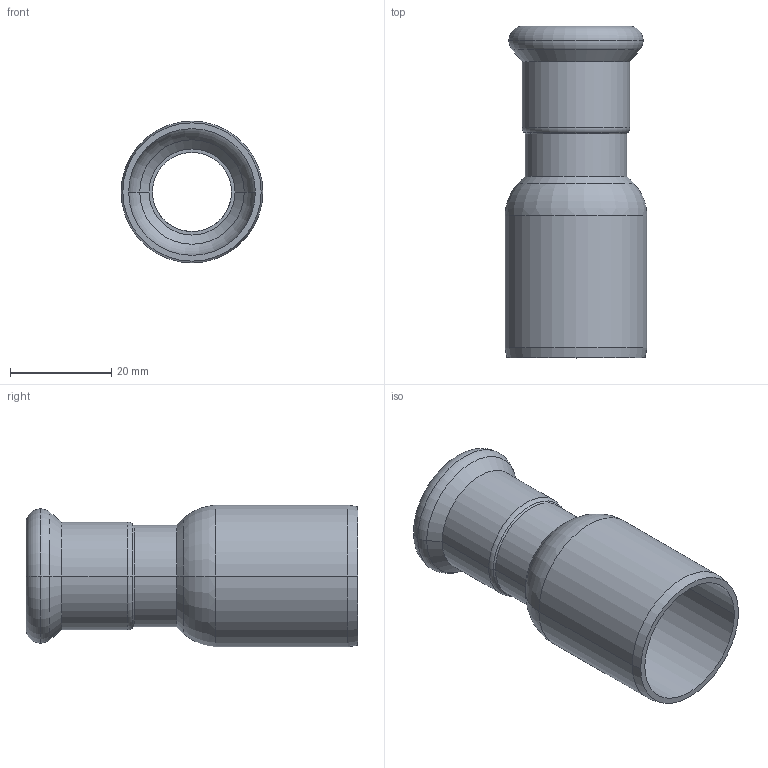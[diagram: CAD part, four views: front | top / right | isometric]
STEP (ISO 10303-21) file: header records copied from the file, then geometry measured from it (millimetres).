
FILE_DESCRIPTION(('CoCreate Modeling STEP Export'),'2;1');
FILE_NAME('C1407 18x28.stp','2014-11-07T15:31:43',(''),(''),'CoCreate Modeling STEP processor for AP214 (Solid Model)','CoCreate Modeling 17.00A 17-Jun-2010 (C) Parametric Technology GmbH','');
FILE_SCHEMA(('AUTOMOTIVE_DESIGN { 1 0 10303 214 1 1 1 1 }'));
Length unit declared in the file: millimetre
Products named in the file (2): C1407_18x28
Assembly tree (1 placements, depth 2):
  C1407_18x28
    C1407_18x28
Bounding box: 28 x 65.5 x 28 mm (x, y, z)
Volume: 8315.2 mm3; surface area: 10204.8 mm2
Topology: 1 solids, 1 shells, 41 faces, 83 edges, 47 vertices
Faces by surface type: cylinder 16, torus 10, cone 10, plane 5
Entity records: 908 total; most frequent: ORIENTED_EDGE 166, DIRECTION 140, CARTESIAN_POINT 130, EDGE_CURVE 83, AXIS2_PLACEMENT_3D 57, VERTEX_POINT 47, EDGE_LOOP 46, FACE_OUTER_BOUND 41
